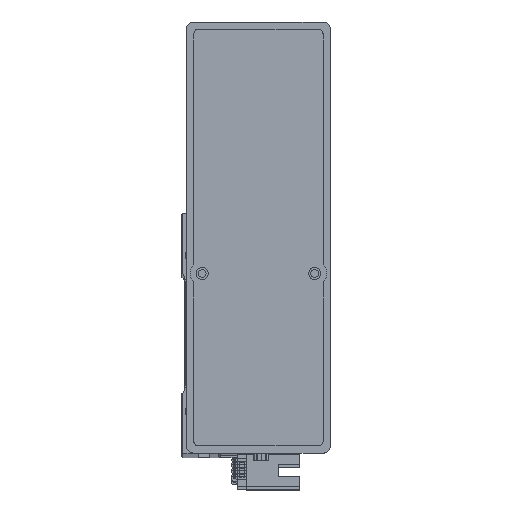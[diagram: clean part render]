
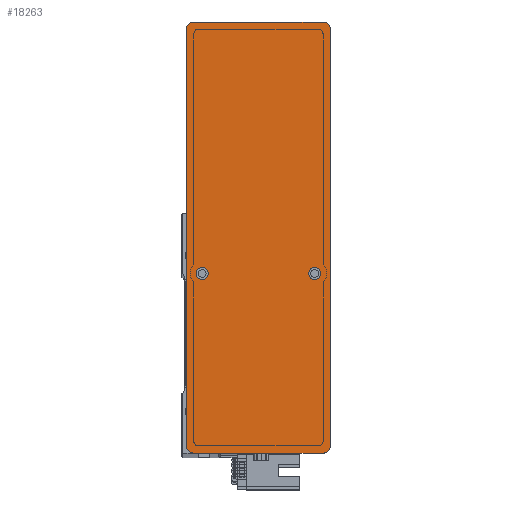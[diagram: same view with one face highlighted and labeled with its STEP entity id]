
A CAD part, top view. The second image highlights one B-rep face of the part: STEP entity #18263.
In plain terms, the highlighted planar face has unit normal (0, 0, 1) as drawn and (0, 0, -1) by its records, which use the part's own axes.
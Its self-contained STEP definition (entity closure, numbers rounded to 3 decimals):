
#690 = DIRECTION ( 'NONE',  ( 0., 0., -1. ) ) ;
#1456 = VERTEX_POINT ( 'NONE', #25103 ) ;
#1851 = CARTESIAN_POINT ( 'NONE',  ( -90., -30., 0. ) ) ;
#1894 = CARTESIAN_POINT ( 'NONE',  ( 90., -30., 0. ) ) ;
#2531 = ORIENTED_EDGE ( 'NONE', *, *, #15925, .T. ) ;
#2872 = CARTESIAN_POINT ( 'NONE',  ( 87., -30., 0. ) ) ;
#3197 = VERTEX_POINT ( 'NONE', #44492 ) ;
#3586 = DIRECTION ( 'NONE',  ( 1., 0., 0. ) ) ;
#4621 = CIRCLE ( 'NONE', #23059, 2.5 ) ;
#4693 = DIRECTION ( 'NONE',  ( 0., 0., -1. ) ) ;
#5610 = DIRECTION ( 'NONE',  ( 0., 1., 0. ) ) ;
#5862 = CIRCLE ( 'NONE', #47026, 3. ) ;
#6722 = LINE ( 'NONE', #1851, #45096 ) ;
#7418 = AXIS2_PLACEMENT_3D ( 'NONE', #39424, #34748, #12790 ) ;
#7803 = EDGE_CURVE ( 'NONE', #3197, #45458, #35108, .T. ) ;
#7966 = DIRECTION ( 'NONE',  ( 0., 0., -1. ) ) ;
#8785 = CARTESIAN_POINT ( 'NONE',  ( -15., -23.5, 0. ) ) ;
#8809 = CARTESIAN_POINT ( 'NONE',  ( 87., 30., 0. ) ) ;
#9179 = CARTESIAN_POINT ( 'NONE',  ( -15., 23.5, 0. ) ) ;
#9761 = EDGE_CURVE ( 'NONE', #11390, #41229, #4621, .T. ) ;
#10223 = EDGE_LOOP ( 'NONE', ( #32090, #24288, #43653, #43203, #34122, #27134, #18680, #2531 ) ) ;
#11308 = CARTESIAN_POINT ( 'NONE',  ( -87., 30., 0. ) ) ;
#11390 = VERTEX_POINT ( 'NONE', #23957 ) ;
#12790 = DIRECTION ( 'NONE',  ( 1., 0., 0. ) ) ;
#12930 = DIRECTION ( 'NONE',  ( -1., 0., 0. ) ) ;
#13734 = DIRECTION ( 'NONE',  ( -1., 0., 0. ) ) ;
#15137 = VERTEX_POINT ( 'NONE', #36870 ) ;
#15704 = CIRCLE ( 'NONE', #37813, 3. ) ;
#15925 = EDGE_CURVE ( 'NONE', #32911, #20031, #17163, .T. ) ;
#15989 = CARTESIAN_POINT ( 'NONE',  ( -12.5, 23.5, 0. ) ) ;
#17163 = CIRCLE ( 'NONE', #46226, 3. ) ;
#17290 = AXIS2_PLACEMENT_3D ( 'NONE', #35387, #43255, #20958 ) ;
#18263 = ADVANCED_FACE ( 'NONE', ( #35209, #26480, #45145 ), #32011, .F. ) ;
#18615 = ORIENTED_EDGE ( 'NONE', *, *, #9761, .F. ) ;
#18680 = ORIENTED_EDGE ( 'NONE', *, *, #43332, .F. ) ;
#18793 = VECTOR ( 'NONE', #13734, 1000. ) ;
#19084 = VERTEX_POINT ( 'NONE', #11308 ) ;
#19175 = DIRECTION ( 'NONE',  ( 0., 0., -1. ) ) ;
#19360 = EDGE_CURVE ( 'NONE', #1456, #20031, #43589, .T. ) ;
#20031 = VERTEX_POINT ( 'NONE', #32849 ) ;
#20958 = DIRECTION ( 'NONE',  ( 1., 0., 0. ) ) ;
#22919 = CARTESIAN_POINT ( 'NONE',  ( -15., 23.5, 0. ) ) ;
#23059 = AXIS2_PLACEMENT_3D ( 'NONE', #8785, #31050, #38500 ) ;
#23705 = AXIS2_PLACEMENT_3D ( 'NONE', #9179, #35145, #12930 ) ;
#23957 = CARTESIAN_POINT ( 'NONE',  ( -12.5, -23.5, 0. ) ) ;
#24032 = EDGE_CURVE ( 'NONE', #3197, #44423, #47362, .T. ) ;
#24288 = ORIENTED_EDGE ( 'NONE', *, *, #28129, .T. ) ;
#24702 = CIRCLE ( 'NONE', #23705, 2.5 ) ;
#25103 = CARTESIAN_POINT ( 'NONE',  ( 90., -27., 0. ) ) ;
#25583 = EDGE_CURVE ( 'NONE', #41229, #11390, #42293, .T. ) ;
#25713 = DIRECTION ( 'NONE',  ( 0., 0., -1. ) ) ;
#26480 = FACE_BOUND ( 'NONE', #34972, .T. ) ;
#26608 = DIRECTION ( 'NONE',  ( -1., 0., 0. ) ) ;
#26819 = CARTESIAN_POINT ( 'NONE',  ( 87., 27., 0. ) ) ;
#27134 = ORIENTED_EDGE ( 'NONE', *, *, #30805, .T. ) ;
#27533 = VECTOR ( 'NONE', #40651, 1000. ) ;
#28129 = EDGE_CURVE ( 'NONE', #1456, #44423, #15704, .T. ) ;
#28520 = ORIENTED_EDGE ( 'NONE', *, *, #25583, .F. ) ;
#28582 = AXIS2_PLACEMENT_3D ( 'NONE', #41485, #19175, #45191 ) ;
#30056 = EDGE_LOOP ( 'NONE', ( #39639, #46763 ) ) ;
#30207 = CARTESIAN_POINT ( 'NONE',  ( 87., -27., 0. ) ) ;
#30614 = DIRECTION ( 'NONE',  ( 1., 0., 0. ) ) ;
#30805 = EDGE_CURVE ( 'NONE', #15137, #19084, #5862, .T. ) ;
#31050 = DIRECTION ( 'NONE',  ( 0., 0., -1. ) ) ;
#31550 = DIRECTION ( 'NONE',  ( 0., -1., 0. ) ) ;
#32011 = PLANE ( 'NONE',  #17290 ) ;
#32090 = ORIENTED_EDGE ( 'NONE', *, *, #19360, .F. ) ;
#32276 = CARTESIAN_POINT ( 'NONE',  ( -90., -27., 0. ) ) ;
#32404 = EDGE_CURVE ( 'NONE', #39488, #42014, #24702, .T. ) ;
#32849 = CARTESIAN_POINT ( 'NONE',  ( 90., 27., 0. ) ) ;
#32911 = VERTEX_POINT ( 'NONE', #8809 ) ;
#33945 = DIRECTION ( 'NONE',  ( 1., 0., 0. ) ) ;
#34122 = ORIENTED_EDGE ( 'NONE', *, *, #38735, .F. ) ;
#34748 = DIRECTION ( 'NONE',  ( 0., 0., -1. ) ) ;
#34972 = EDGE_LOOP ( 'NONE', ( #28520, #18615 ) ) ;
#35108 = CIRCLE ( 'NONE', #7418, 3. ) ;
#35145 = DIRECTION ( 'NONE',  ( 0., 0., -1. ) ) ;
#35209 = FACE_BOUND ( 'NONE', #30056, .T. ) ;
#35387 = CARTESIAN_POINT ( 'NONE',  ( 0., 0., 0. ) ) ;
#35518 = CARTESIAN_POINT ( 'NONE',  ( -17.5, -23.5, 0. ) ) ;
#36870 = CARTESIAN_POINT ( 'NONE',  ( -90., 27., 0. ) ) ;
#36902 = CARTESIAN_POINT ( 'NONE',  ( 90., -30., 0. ) ) ;
#37813 = AXIS2_PLACEMENT_3D ( 'NONE', #30207, #7966, #33945 ) ;
#38500 = DIRECTION ( 'NONE',  ( -1., 0., 0. ) ) ;
#38735 = EDGE_CURVE ( 'NONE', #15137, #45458, #6722, .T. ) ;
#39424 = CARTESIAN_POINT ( 'NONE',  ( -87., -27., 0. ) ) ;
#39488 = VERTEX_POINT ( 'NONE', #46927 ) ;
#39639 = ORIENTED_EDGE ( 'NONE', *, *, #32404, .F. ) ;
#40651 = DIRECTION ( 'NONE',  ( 1., 0., 0. ) ) ;
#41092 = CIRCLE ( 'NONE', #45569, 2.5 ) ;
#41229 = VERTEX_POINT ( 'NONE', #35518 ) ;
#41485 = CARTESIAN_POINT ( 'NONE',  ( -15., -23.5, 0. ) ) ;
#42014 = VERTEX_POINT ( 'NONE', #15989 ) ;
#42293 = CIRCLE ( 'NONE', #28582, 2.5 ) ;
#43203 = ORIENTED_EDGE ( 'NONE', *, *, #7803, .T. ) ;
#43255 = DIRECTION ( 'NONE',  ( 0., 0., 1. ) ) ;
#43332 = EDGE_CURVE ( 'NONE', #32911, #19084, #47274, .T. ) ;
#43589 = LINE ( 'NONE', #1894, #44744 ) ;
#43643 = CARTESIAN_POINT ( 'NONE',  ( 90., 30., 0. ) ) ;
#43653 = ORIENTED_EDGE ( 'NONE', *, *, #24032, .F. ) ;
#44423 = VERTEX_POINT ( 'NONE', #2872 ) ;
#44492 = CARTESIAN_POINT ( 'NONE',  ( -87., -30., 0. ) ) ;
#44744 = VECTOR ( 'NONE', #5610, 1000. ) ;
#45096 = VECTOR ( 'NONE', #31550, 1000. ) ;
#45145 = FACE_OUTER_BOUND ( 'NONE', #10223, .T. ) ;
#45191 = DIRECTION ( 'NONE',  ( -1., 0., 0. ) ) ;
#45458 = VERTEX_POINT ( 'NONE', #32276 ) ;
#45569 = AXIS2_PLACEMENT_3D ( 'NONE', #22919, #690, #26608 ) ;
#46196 = EDGE_CURVE ( 'NONE', #42014, #39488, #41092, .T. ) ;
#46226 = AXIS2_PLACEMENT_3D ( 'NONE', #26819, #4693, #30614 ) ;
#46763 = ORIENTED_EDGE ( 'NONE', *, *, #46196, .F. ) ;
#46927 = CARTESIAN_POINT ( 'NONE',  ( -17.5, 23.5, 0. ) ) ;
#47026 = AXIS2_PLACEMENT_3D ( 'NONE', #48012, #25713, #3586 ) ;
#47274 = LINE ( 'NONE', #43643, #18793 ) ;
#47362 = LINE ( 'NONE', #36902, #27533 ) ;
#48012 = CARTESIAN_POINT ( 'NONE',  ( -87., 27., 0. ) ) ;
